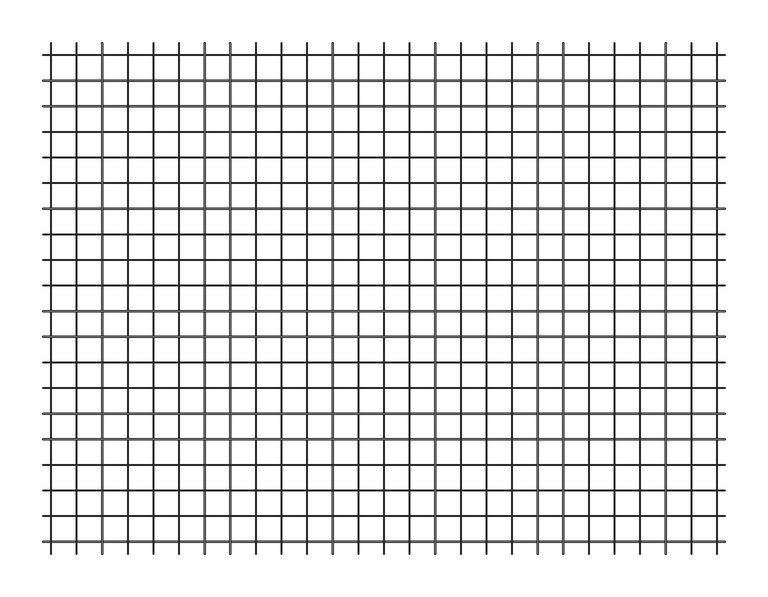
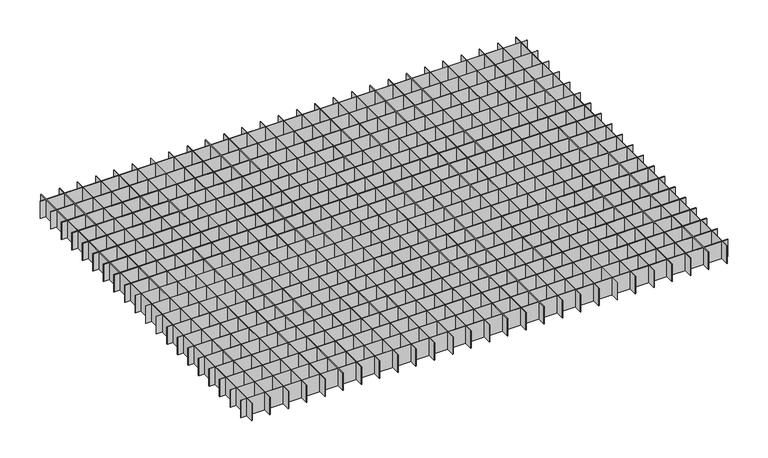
"""IFC4 building model written with IfcOpenShell, lengths in millimetres: proxy geometry, durlum_QUADRA_panel : durlum_QUADRA_length_cut."""

from ifc_helpers import new_model, si_unit, origin, origin_with_axes, place, context, project, spatial, polyline, outline, extrude, source, transform, mapped, element, save


def generic_models_dcda3682(model_context):
    return source(origin(), model_context, "Body", "SweptSolid", [
        extrude(outline(polyline([(359.6, 299.5), (360.4, 299.5), (360.4, -299.5), (359.6, -299.5), (359.6, 299.5)])), origin_with_axes(), (0.0, 0.0, 1.0), 30.0),
        extrude(outline(polyline([(329.6, 299.5), (330.4, 299.5), (330.4, -299.5), (329.6, -299.5), (329.6, 299.5)])), origin_with_axes(), (0.0, 0.0, 1.0), 30.0),
        extrude(outline(polyline([(299.6, 299.5), (300.4, 299.5), (300.4, -299.5), (299.6, -299.5), (299.6, 299.5)])), origin_with_axes(), (0.0, 0.0, 1.0), 30.0),
        extrude(outline(polyline([(269.6, 299.5), (270.4, 299.5), (270.4, -299.5), (269.6, -299.5), (269.6, 299.5)])), origin_with_axes(), (0.0, 0.0, 1.0), 30.0),
        extrude(outline(polyline([(239.6, 299.5), (240.4, 299.5), (240.4, -299.5), (239.6, -299.5), (239.6, 299.5)])), origin_with_axes(), (0.0, 0.0, 1.0), 30.0),
        extrude(outline(polyline([(209.6, 299.5), (210.4, 299.5), (210.4, -299.5), (209.6, -299.5), (209.6, 299.5)])), origin_with_axes(), (0.0, 0.0, 1.0), 30.0),
        extrude(outline(polyline([(179.6, 299.5), (180.4, 299.5), (180.4, -299.5), (179.6, -299.5), (179.6, 299.5)])), origin_with_axes(), (0.0, 0.0, 1.0), 30.0),
        extrude(outline(polyline([(149.6, 299.5), (150.4, 299.5), (150.4, -299.5), (149.6, -299.5), (149.6, 299.5)])), origin_with_axes(), (0.0, 0.0, 1.0), 30.0),
        extrude(outline(polyline([(119.6, 299.5), (120.4, 299.5), (120.4, -299.5), (119.6, -299.5), (119.6, 299.5)])), origin_with_axes(), (0.0, 0.0, 1.0), 30.0),
        extrude(outline(polyline([(89.6, 299.5), (90.4, 299.5), (90.4, -299.5), (89.6, -299.5), (89.6, 299.5)])), origin_with_axes(), (0.0, 0.0, 1.0), 30.0),
        extrude(outline(polyline([(59.6, 299.5), (60.4, 299.5), (60.4, -299.5), (59.6, -299.5), (59.6, 299.5)])), origin_with_axes(), (0.0, 0.0, 1.0), 30.0),
        extrude(outline(polyline([(29.6, 299.5), (30.4, 299.5), (30.4, -299.5), (29.6, -299.5), (29.6, 299.5)])), origin_with_axes(), (0.0, 0.0, 1.0), 30.0),
        extrude(outline(polyline([(399.75, -254.6), (399.75, -255.4), (-399.75, -255.4), (-399.75, -254.6), (399.75, -254.6)])), origin_with_axes(), (0.0, 0.0, 1.0), 30.0),
        extrude(outline(polyline([(399.75, -224.6), (399.75, -225.4), (-399.75, -225.4), (-399.75, -224.6), (399.75, -224.6)])), origin_with_axes(), (0.0, 0.0, 1.0), 30.0),
        extrude(outline(polyline([(399.75, -194.6), (399.75, -195.4), (-399.75, -195.4), (-399.75, -194.6), (399.75, -194.6)])), origin_with_axes(), (0.0, 0.0, 1.0), 30.0),
        extrude(outline(polyline([(399.75, -164.6), (399.75, -165.4), (-399.75, -165.4), (-399.75, -164.6), (399.75, -164.6)])), origin_with_axes(), (0.0, 0.0, 1.0), 30.0),
        extrude(outline(polyline([(399.75, -134.6), (399.75, -135.4), (-399.75, -135.4), (-399.75, -134.6), (399.75, -134.6)])), origin_with_axes(), (0.0, 0.0, 1.0), 30.0),
        extrude(outline(polyline([(399.75, -104.6), (399.75, -105.4), (-399.75, -105.4), (-399.75, -104.6), (399.75, -104.6)])), origin_with_axes(), (0.0, 0.0, 1.0), 30.0),
        extrude(outline(polyline([(399.75, -74.6), (399.75, -75.4), (-399.75, -75.4), (-399.75, -74.6), (399.75, -74.6)])), origin_with_axes(), (0.0, 0.0, 1.0), 30.0),
        extrude(outline(polyline([(399.75, -44.6), (399.75, -45.4), (-399.75, -45.4), (-399.75, -44.6), (399.75, -44.6)])), origin_with_axes(), (0.0, 0.0, 1.0), 30.0),
        extrude(outline(polyline([(399.75, -14.6), (399.75, -15.4), (-399.75, -15.4), (-399.75, -14.6), (399.75, -14.6)])), origin_with_axes(), (0.0, 0.0, 1.0), 30.0),
        extrude(outline(polyline([(399.75, 15.4), (399.75, 14.6), (-399.75, 14.6), (-399.75, 15.4), (399.75, 15.4)])), origin_with_axes(), (0.0, 0.0, 1.0), 30.0),
        extrude(outline(polyline([(399.75, 45.4), (399.75, 44.6), (-399.75, 44.6), (-399.75, 45.4), (399.75, 45.4)])), origin_with_axes(), (0.0, 0.0, 1.0), 30.0),
        extrude(outline(polyline([(399.75, 75.4), (399.75, 74.6), (-399.75, 74.6), (-399.75, 75.4), (399.75, 75.4)])), origin_with_axes(), (0.0, 0.0, 1.0), 30.0),
        extrude(outline(polyline([(-0.4, 299.5), (0.4, 299.5), (0.4, -299.5), (-0.4, -299.5), (-0.4, 299.5)])), origin_with_axes(), (0.0, 0.0, 1.0), 30.0),
        extrude(outline(polyline([(-30.4, 299.5), (-29.6, 299.5), (-29.6, -299.5), (-30.4, -299.5), (-30.4, 299.5)])), origin_with_axes(), (0.0, 0.0, 1.0), 30.0),
        extrude(outline(polyline([(-60.4, 299.5), (-59.6, 299.5), (-59.6, -299.5), (-60.4, -299.5), (-60.4, 299.5)])), origin_with_axes(), (0.0, 0.0, 1.0), 30.0),
        extrude(outline(polyline([(-90.4, 299.5), (-89.6, 299.5), (-89.6, -299.5), (-90.4, -299.5), (-90.4, 299.5)])), origin_with_axes(), (0.0, 0.0, 1.0), 30.0),
        extrude(outline(polyline([(-120.4, 299.5), (-119.6, 299.5), (-119.6, -299.5), (-120.4, -299.5), (-120.4, 299.5)])), origin_with_axes(), (0.0, 0.0, 1.0), 30.0),
        extrude(outline(polyline([(-150.4, 299.5), (-149.6, 299.5), (-149.6, -299.5), (-150.4, -299.5), (-150.4, 299.5)])), origin_with_axes(), (0.0, 0.0, 1.0), 30.0),
        extrude(outline(polyline([(-180.4, 299.5), (-179.6, 299.5), (-179.6, -299.5), (-180.4, -299.5), (-180.4, 299.5)])), origin_with_axes(), (0.0, 0.0, 1.0), 30.0),
        extrude(outline(polyline([(-210.4, 299.5), (-209.6, 299.5), (-209.6, -299.5), (-210.4, -299.5), (-210.4, 299.5)])), origin_with_axes(), (0.0, 0.0, 1.0), 30.0),
        extrude(outline(polyline([(-240.4, 299.5), (-239.6, 299.5), (-239.6, -299.5), (-240.4, -299.5), (-240.4, 299.5)])), origin_with_axes(), (0.0, 0.0, 1.0), 30.0),
        extrude(outline(polyline([(-270.4, 299.5), (-269.6, 299.5), (-269.6, -299.5), (-270.4, -299.5), (-270.4, 299.5)])), origin_with_axes(), (0.0, 0.0, 1.0), 30.0),
        extrude(outline(polyline([(-300.4, 299.5), (-299.6, 299.5), (-299.6, -299.5), (-300.4, -299.5), (-300.4, 299.5)])), origin_with_axes(), (0.0, 0.0, 1.0), 30.0),
        extrude(outline(polyline([(-330.4, 299.5), (-329.6, 299.5), (-329.6, -299.5), (-330.4, -299.5), (-330.4, 299.5)])), origin_with_axes(), (0.0, 0.0, 1.0), 30.0),
        extrude(outline(polyline([(-360.4, 299.5), (-359.6, 299.5), (-359.6, -299.5), (-360.4, -299.5), (-360.4, 299.5)])), origin_with_axes(), (0.0, 0.0, 1.0), 30.0),
        extrude(outline(polyline([(399.75, 105.4), (399.75, 104.6), (-399.75, 104.6), (-399.75, 105.4), (399.75, 105.4)])), origin_with_axes(), (0.0, 0.0, 1.0), 30.0),
        extrude(outline(polyline([(399.75, 135.4), (399.75, 134.6), (-399.75, 134.6), (-399.75, 135.4), (399.75, 135.4)])), origin_with_axes(), (0.0, 0.0, 1.0), 30.0),
        extrude(outline(polyline([(399.75, 165.4), (399.75, 164.6), (-399.75, 164.6), (-399.75, 165.4), (399.75, 165.4)])), origin_with_axes(), (0.0, 0.0, 1.0), 30.0),
        extrude(outline(polyline([(399.75, 195.4), (399.75, 194.6), (-399.75, 194.6), (-399.75, 195.4), (399.75, 195.4)])), origin_with_axes(), (0.0, 0.0, 1.0), 30.0),
        extrude(outline(polyline([(399.75, 225.4), (399.75, 224.6), (-399.75, 224.6), (-399.75, 225.4), (399.75, 225.4)])), origin_with_axes(), (0.0, 0.0, 1.0), 30.0),
        extrude(outline(polyline([(399.75, 255.4), (399.75, 254.6), (-399.75, 254.6), (-399.75, 255.4), (399.75, 255.4)])), origin_with_axes(), (0.0, 0.0, 1.0), 30.0),
        extrude(outline(polyline([(389.6, 299.5), (390.4, 299.5), (390.4, -299.5), (389.6, -299.5), (389.6, 299.5)])), origin_with_axes(), (0.0, 0.0, 1.0), 30.0),
        extrude(outline(polyline([(-390.4, 299.5), (-389.6, 299.5), (-389.6, -299.5), (-390.4, -299.5), (-390.4, 299.5)])), origin_with_axes(), (0.0, 0.0, 1.0), 30.0),
        extrude(outline(polyline([(399.75, -284.6), (399.75, -285.4), (-399.75, -285.4), (-399.75, -284.6), (399.75, -284.6)])), origin_with_axes(), (0.0, 0.0, 1.0), 30.0),
        extrude(outline(polyline([(399.75, 285.4), (399.75, 284.6), (-399.75, 284.6), (-399.75, 285.4), (399.75, 285.4)])), origin_with_axes(), (0.0, 0.0, 1.0), 30.0),
    ])


if __name__ == "__main__":
    model = new_model("IFC4")
    model_context = context("Model", 3, world=origin())
    ifc_project = project(units=[si_unit("LENGTHUNIT", "METRE", prefix="MILLI")], contexts=[model_context])
    site = spatial("IfcSite", under=ifc_project)
    building = spatial("IfcBuilding", under=site)
    placement = place(None, origin())
    generic_models_shape = generic_models_dcda3682(model_context)
    element("IfcBuildingElementProxy", 1, Name="durlum_QUADRA_panel : durlum_QUADRA_length_cut", ObjectType="durlum_QUADRA_panel : durlum_QUADRA_length_cut", at=placement, inside=building, context=model_context, shape_type="MappedRepresentation", body=[
        mapped(generic_models_shape, transform((0.0, 0.0, 0.0), x_axis=(1.0, 0.0, 0.0), y_axis=(0.0, 1.0, 0.0), z_axis=(0.0, 0.0, 1.0))),
    ])
    save(model, "model.ifc")
